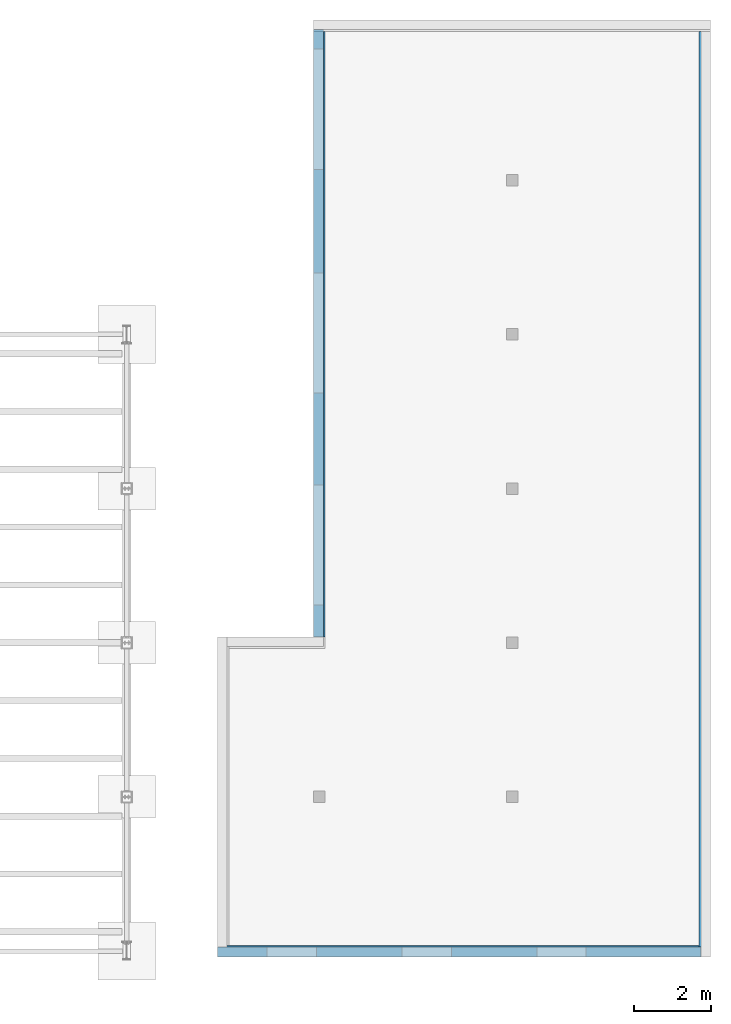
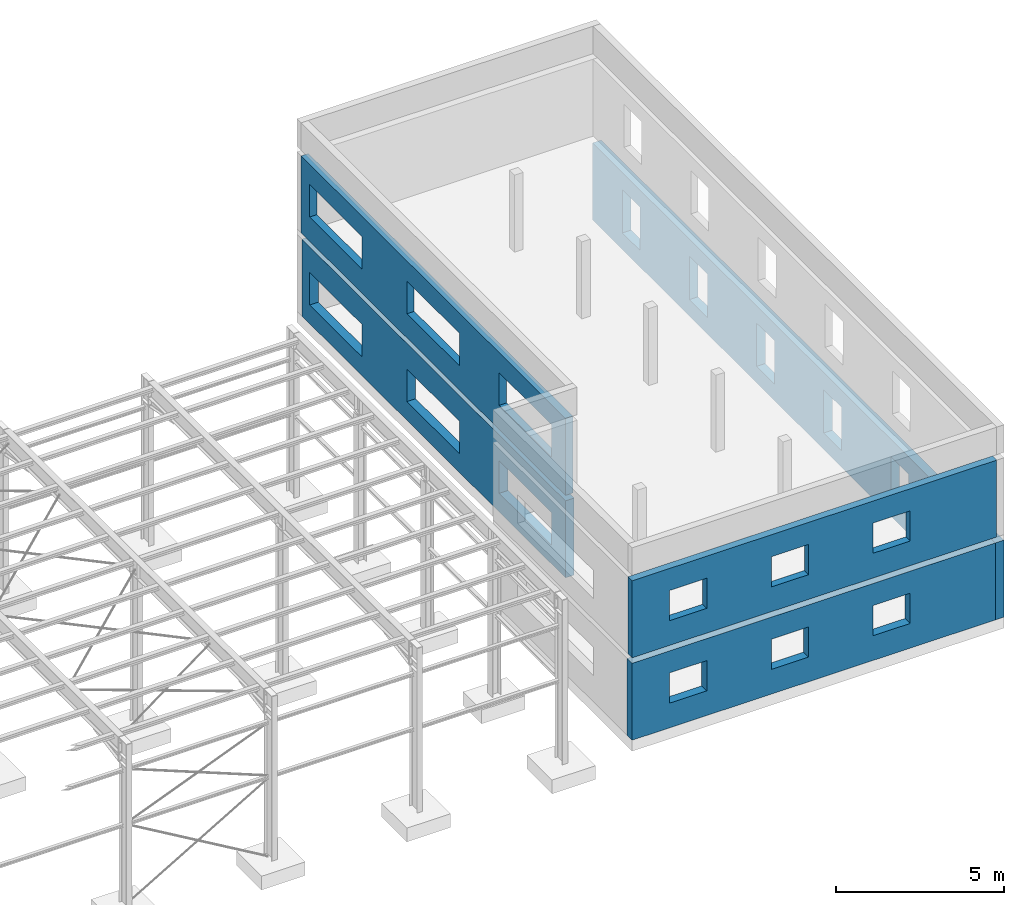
# Not in any storey, part 13 of 50: 5 walls, 18 openings.
"""IFC4 model written with IfcOpenShell, lengths in metres."""

from ifc_helpers import new_model, entity, si_unit, converted_unit, derived_unit, direction, frame, origin, place, context, subcontext, project, spatial, indexed_curve, outline, extrude, polygons, material, type_object, element, save


model = new_model("IFC4")

# Units and contexts
model_context = context("Model", 3, precision=1e-05, world=origin(), true_north=direction((6.123233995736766e-17, 1.0)))
body_context = subcontext(model_context, "Body", "Model", "MODEL_VIEW")
ifc_project = project(units=[si_unit("LENGTHUNIT", "METRE"), si_unit("AREAUNIT", "SQUARE_METRE"), converted_unit("PLANEANGLEUNIT", "DEGREE", entity("IfcPlaneAngleMeasure", 0.017453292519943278), si_unit("PLANEANGLEUNIT", "RADIAN"), dimensions=[0, 0, 0, 0, 0, 0, 0]), si_unit("VOLUMEUNIT", "CUBIC_METRE"), derived_unit("THERMALTRANSMITTANCEUNIT", [(si_unit("MASSUNIT", "GRAM", prefix="KILO"), 1), (si_unit("THERMODYNAMICTEMPERATUREUNIT", "KELVIN"), -1), (si_unit("TIMEUNIT", "SECOND"), -3)])], contexts=[model_context])

# Site
site_placement = place(None, origin())
site = spatial("IfcSite", under=ifc_project, at=site_placement, Name="Default", CompositionType="ELEMENT")

# Wall, openings
ifc_material = material(Name="Ortbeton - bewehrt Verputzt", Category="Generisch")
wall_type_1 = type_object("IfcWallType", Name="Basiswand:STB 300", PredefinedType="STANDARD")
wall_1_placement = place(site_placement, frame((38.1901448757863, 25.788267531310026, 0.0), z_axis=(0.0, 0.0, 1.0), x_axis=(0.0, -1.0, 0.0)))
wall_1 = element("IfcWall", 1, at=wall_1_placement, inside=site, type_object=wall_type_1, material=ifc_material, Name="Basiswand:STB 300", ObjectType="Basiswand:STB 300", PredefinedType="NOTDEFINED", context=body_context, shape_type="Tessellation", body=[
    polygons([(0.0, -0.1499999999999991, 0.0), (23.70850000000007, -0.1499999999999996, 0.0), (24.00850000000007, -0.1499999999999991, 0.0), (24.00850000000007, -0.1499999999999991, 2.8000000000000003), (23.70850000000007, -0.1499999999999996, 2.8), (0.0, -0.1499999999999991, 2.8000000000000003), (21.780797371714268, -0.1499999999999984, 2.1745163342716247), (22.840907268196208, -0.15000000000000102, 2.1745163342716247), (22.840907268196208, -0.15000000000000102, 0.603282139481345), (21.780797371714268, -0.1499999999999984, 0.603282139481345), (17.780797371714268, -0.15000000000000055, 2.1745163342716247), (18.840907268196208, -0.14999999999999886, 2.1745163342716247), (18.840907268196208, -0.14999999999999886, 0.603282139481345), (17.780797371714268, -0.15000000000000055, 0.603282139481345), (13.780797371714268, -0.14999999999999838, 2.1745163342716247), (14.840907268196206, -0.1499999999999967, 2.1745163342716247), (14.840907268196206, -0.1499999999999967, 0.603282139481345), (13.780797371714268, -0.14999999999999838, 0.603282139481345), (9.78079737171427, -0.15000000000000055, 2.1745163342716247), (10.840907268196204, -0.14999999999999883, 2.1745163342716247), (10.840907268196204, -0.14999999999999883, 0.603282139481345), (9.78079737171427, -0.15000000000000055, 0.603282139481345), (5.780797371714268, -0.15000000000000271, 2.1745163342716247), (6.840907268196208, -0.150000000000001, 2.1745163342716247), (6.840907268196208, -0.150000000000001, 0.603282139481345), (5.780797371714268, -0.15000000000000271, 0.603282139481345), (1.7807973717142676, -0.15000000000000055, 2.1745163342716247), (2.8409072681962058, -0.14999999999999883, 2.1745163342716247), (2.8409072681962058, -0.14999999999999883, 0.603282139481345), (1.7807973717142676, -0.15000000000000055, 0.603282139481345), (24.00850000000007, 0.150000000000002, 0.0), (0.0, 0.150000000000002, 0.0), (0.0, 0.150000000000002, 2.8000000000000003), (24.00850000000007, 0.150000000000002, 2.8000000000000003), (22.840907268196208, 0.1500000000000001, 2.1745163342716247), (21.780797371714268, 0.15000000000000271, 2.1745163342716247), (21.780797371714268, 0.15000000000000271, 0.603282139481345), (22.840907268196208, 0.1500000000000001, 0.603282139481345), (18.840907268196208, 0.15000000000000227, 2.1745163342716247), (17.780797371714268, 0.15000000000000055, 2.1745163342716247), (17.780797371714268, 0.15000000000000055, 0.603282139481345), (18.840907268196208, 0.15000000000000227, 0.603282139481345), (14.840907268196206, 0.15000000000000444, 2.1745163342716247), (13.780797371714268, 0.15000000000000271, 2.1745163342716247), (13.780797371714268, 0.15000000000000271, 0.603282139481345), (14.840907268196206, 0.15000000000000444, 0.603282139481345), (10.840907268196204, 0.15000000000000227, 2.1745163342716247), (9.78079737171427, 0.15000000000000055, 2.1745163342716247), (9.78079737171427, 0.15000000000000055, 0.603282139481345), (10.840907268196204, 0.15000000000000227, 0.603282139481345), (6.840907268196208, 0.1500000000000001, 2.1745163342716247), (5.780797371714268, 0.14999999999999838, 2.1745163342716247), (5.780797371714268, 0.14999999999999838, 0.603282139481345), (6.840907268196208, 0.1500000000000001, 0.603282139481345), (2.8409072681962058, 0.15000000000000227, 2.1745163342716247), (1.7807973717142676, 0.15000000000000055, 2.1745163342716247), (1.7807973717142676, 0.15000000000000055, 0.603282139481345), (2.8409072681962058, 0.15000000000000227, 0.603282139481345)], [[[1, 2, 3, 4, 5, 6], [7, 8, 9, 10], [11, 12, 13, 14], [15, 16, 17, 18], [19, 20, 21, 22], [23, 24, 25, 26], [27, 28, 29, 30]], [[31, 32, 33, 34], [35, 36, 37, 38], [39, 40, 41, 42], [43, 44, 45, 46], [47, 48, 49, 50], [51, 52, 53, 54], [55, 56, 57, 58]], [[3, 2, 1, 32, 31]], [[1, 6, 33, 32]], [[4, 3, 31, 34]], [[6, 5, 4, 34, 33]], [[7, 36, 35, 8]], [[9, 38, 37, 10]], [[36, 7, 10, 37]], [[8, 35, 38, 9]], [[11, 40, 39, 12]], [[13, 42, 41, 14]], [[40, 11, 14, 41]], [[12, 39, 42, 13]], [[15, 44, 43, 16]], [[17, 46, 45, 18]], [[44, 15, 18, 45]], [[16, 43, 46, 17]], [[19, 48, 47, 20]], [[21, 50, 49, 22]], [[48, 19, 22, 49]], [[20, 47, 50, 21]], [[23, 52, 51, 24]], [[25, 54, 53, 26]], [[52, 23, 26, 53]], [[24, 51, 54, 25]], [[27, 56, 55, 28]], [[29, 58, 57, 30]], [[56, 27, 30, 57]], [[28, 55, 58, 29]]], closed=True),
])
opening_1_placement = place(wall_1_placement, origin())
element("IfcOpeningElement", 2, at=opening_1_placement, cuts=wall_1, Name="Basiswand:STB 300", PredefinedType="OPENING", context=body_context, shape_type="SweptSolid", body=[
    extrude(outline(indexed_curve([(-0.78561709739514, -0.5300549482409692), (0.78561709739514, -0.5300549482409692), (0.78561709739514, 0.5300549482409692), (-0.78561709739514, 0.5300549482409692), (-0.78561709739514, -0.5300549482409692)], self_intersect=False)), frame((22.310852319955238, -0.14999999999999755, 1.388899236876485), z_axis=(0.0, 1.0, 0.0), x_axis=(0.0, 0.0, -1.0)), (0.0, 0.0, 1.0), 0.29999999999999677),
])
opening_2_placement = place(wall_1_placement, origin())
element("IfcOpeningElement", 3, at=opening_2_placement, cuts=wall_1, Name="Basiswand:STB 300", PredefinedType="OPENING", context=body_context, shape_type="SweptSolid", body=[
    extrude(outline(indexed_curve([(-0.78561709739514, -0.5300549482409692), (0.78561709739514, -0.5300549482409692), (0.78561709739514, 0.5300549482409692), (-0.78561709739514, 0.5300549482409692), (-0.78561709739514, -0.5300549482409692)], self_intersect=False)), frame((18.310852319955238, -0.14999999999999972, 1.388899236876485), z_axis=(0.0, 1.0, 0.0), x_axis=(0.0, 0.0, -1.0)), (0.0, 0.0, 1.0), 0.3000000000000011),
])
opening_3_placement = place(wall_1_placement, origin())
element("IfcOpeningElement", 4, at=opening_3_placement, cuts=wall_1, Name="Basiswand:STB 300", PredefinedType="OPENING", context=body_context, shape_type="SweptSolid", body=[
    extrude(outline(indexed_curve([(-0.78561709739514, -0.5300549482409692), (0.78561709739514, -0.5300549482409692), (0.78561709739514, 0.5300549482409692), (-0.78561709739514, 0.5300549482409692), (-0.78561709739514, -0.5300549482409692)], self_intersect=False)), frame((14.310852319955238, -0.14999999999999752, 1.388899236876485), z_axis=(0.0, 1.0, 0.0), x_axis=(0.0, 0.0, -1.0)), (0.0, 0.0, 1.0), 0.29999999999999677),
])
opening_4_placement = place(wall_1_placement, origin())
element("IfcOpeningElement", 5, at=opening_4_placement, cuts=wall_1, Name="Basiswand:STB 300", PredefinedType="OPENING", context=body_context, shape_type="SweptSolid", body=[
    extrude(outline(indexed_curve([(-0.78561709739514, -0.5300549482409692), (0.78561709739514, -0.5300549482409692), (0.78561709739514, 0.5300549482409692), (-0.78561709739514, 0.5300549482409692), (-0.78561709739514, -0.5300549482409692)], self_intersect=False)), frame((10.310852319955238, -0.1499999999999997, 1.388899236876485), z_axis=(0.0, 1.0, 0.0), x_axis=(0.0, 0.0, -1.0)), (0.0, 0.0, 1.0), 0.3000000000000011),
])
opening_5_placement = place(wall_1_placement, origin())
element("IfcOpeningElement", 6, at=opening_5_placement, cuts=wall_1, Name="Basiswand:STB 300", PredefinedType="OPENING", context=body_context, shape_type="SweptSolid", body=[
    extrude(outline(indexed_curve([(-0.78561709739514, -0.5300549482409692), (0.78561709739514, -0.5300549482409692), (0.78561709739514, 0.5300549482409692), (-0.78561709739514, 0.5300549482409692), (-0.78561709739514, -0.5300549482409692)], self_intersect=False)), frame((6.310852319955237, -0.14999999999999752, 1.388899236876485), z_axis=(0.0, 1.0, 0.0), x_axis=(0.0, 0.0, -1.0)), (0.0, 0.0, 1.0), 0.29999999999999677),
])
opening_6_placement = place(wall_1_placement, origin())
element("IfcOpeningElement", 7, at=opening_6_placement, cuts=wall_1, Name="Basiswand:STB 300", PredefinedType="OPENING", context=body_context, shape_type="SweptSolid", body=[
    extrude(outline(indexed_curve([(-0.78561709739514, -0.5300549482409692), (0.78561709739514, -0.5300549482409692), (0.78561709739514, 0.5300549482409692), (-0.78561709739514, 0.5300549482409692), (-0.78561709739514, -0.5300549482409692)], self_intersect=False)), frame((2.3108523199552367, -0.1499999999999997, 1.388899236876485), z_axis=(0.0, 1.0, 0.0), x_axis=(0.0, 0.0, -1.0)), (0.0, 0.0, 1.0), 0.3000000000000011),
])

wall_2_placement = place(site_placement, frame((38.04014487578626, 1.9297675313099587, 0.0), z_axis=(0.0, 0.0, 1.0), x_axis=(-1.0, 0.0, 0.0)))
wall_2 = element("IfcWall", 8, at=wall_2_placement, inside=site, type_object=wall_type_1, material=ifc_material, Name="Basiswand:STB 300", ObjectType="Basiswand:STB 300", PredefinedType="NOTDEFINED", context=body_context, shape_type="Tessellation", body=[
    polygons([(2.2237276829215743e-15, -0.15000000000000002, 0.0), (12.200000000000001, -0.15000000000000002, 0.0), (12.500000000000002, -0.14999999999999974, 0.0), (12.500000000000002, -0.14999999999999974, 2.8000000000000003), (12.199999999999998, -0.15000000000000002, 2.8000000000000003), (2.2237276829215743e-15, -0.15000000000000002, 2.8000000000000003), (2.930221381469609, -0.15000000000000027, 1.998985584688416), (4.209608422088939, -0.15000000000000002, 1.998985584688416), (4.209608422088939, -0.15000000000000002, 0.8995422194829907), (2.930221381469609, -0.15000000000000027, 0.8995422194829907), (9.930221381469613, -0.14999999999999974, 1.9989855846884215), (11.209608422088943, -0.15000000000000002, 1.9989855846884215), (11.209608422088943, -0.15000000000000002, 0.8995422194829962), (9.930221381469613, -0.14999999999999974, 0.8995422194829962), (6.430221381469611, -0.15000000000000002, 1.9989855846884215), (7.709608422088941, -0.15000000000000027, 1.9989855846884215), (7.709608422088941, -0.15000000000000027, 0.8995422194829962), (6.430221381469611, -0.15000000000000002, 0.8995422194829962), (12.500000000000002, 0.15000000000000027, 0.0), (1.2781610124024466e-15, 0.15000000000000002, 0.0), (1.2781610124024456e-15, 0.15000000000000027, 2.8000000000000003), (12.500000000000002, 0.15000000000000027, 2.8000000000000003), (4.209608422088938, 0.15000000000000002, 1.998985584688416), (2.9302213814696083, 0.15000000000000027, 1.998985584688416), (2.9302213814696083, 0.15000000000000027, 0.8995422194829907), (4.209608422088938, 0.15000000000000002, 0.8995422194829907), (11.209608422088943, 0.15000000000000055, 1.9989855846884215), (9.930221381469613, 0.15000000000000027, 1.9989855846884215), (9.930221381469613, 0.15000000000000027, 0.8995422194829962), (11.209608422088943, 0.15000000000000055, 0.8995422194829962), (7.70960842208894, 0.15000000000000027, 1.9989855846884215), (6.430221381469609, 0.15000000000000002, 1.9989855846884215), (6.430221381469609, 0.15000000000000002, 0.8995422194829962), (7.70960842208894, 0.15000000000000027, 0.8995422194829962)], [[[1, 2, 3, 4, 5, 6], [7, 8, 9, 10], [11, 12, 13, 14], [15, 16, 17, 18]], [[19, 20, 21, 22], [23, 24, 25, 26], [27, 28, 29, 30], [31, 32, 33, 34]], [[3, 2, 1, 20, 19]], [[1, 6, 21, 20]], [[4, 3, 19, 22]], [[6, 5, 4, 22, 21]], [[7, 24, 23, 8]], [[9, 26, 25, 10]], [[24, 7, 10, 25]], [[8, 23, 26, 9]], [[11, 28, 27, 12]], [[13, 30, 29, 14]], [[28, 11, 14, 29]], [[12, 27, 30, 13]], [[15, 32, 31, 16]], [[17, 34, 33, 18]], [[32, 15, 18, 33]], [[16, 31, 34, 17]]], closed=True),
])
opening_7_placement = place(wall_2_placement, origin())
element("IfcOpeningElement", 9, at=opening_7_placement, cuts=wall_2, Name="Basiswand:STB 300", PredefinedType="OPENING", context=body_context, shape_type="SweptSolid", body=[
    extrude(outline(indexed_curve([(-0.5497216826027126, -0.6396935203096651), (0.5497216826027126, -0.6396935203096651), (0.5497216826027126, 0.6396935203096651), (-0.5497216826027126, 0.6396935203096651), (-0.5497216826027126, -0.6396935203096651)], self_intersect=False)), frame((3.5699149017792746, -0.15000000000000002, 1.4492639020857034), z_axis=(0.0, 1.0, 0.0), x_axis=(0.0, 0.0, -1.0)), (0.0, 0.0, 1.0), 0.30000000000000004),
])
opening_8_placement = place(wall_2_placement, origin())
element("IfcOpeningElement", 10, at=opening_8_placement, cuts=wall_2, Name="Basiswand:STB 300", PredefinedType="OPENING", context=body_context, shape_type="SweptSolid", body=[
    extrude(outline(indexed_curve([(-0.5497216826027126, -0.6396935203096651), (0.5497216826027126, -0.6396935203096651), (0.5497216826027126, 0.6396935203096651), (-0.5497216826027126, 0.6396935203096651), (-0.5497216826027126, -0.6396935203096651)], self_intersect=False)), frame((10.569914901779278, -0.15000000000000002, 1.4492639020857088), z_axis=(0.0, 1.0, 0.0), x_axis=(0.0, 0.0, -1.0)), (0.0, 0.0, 1.0), 0.30000000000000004),
])
opening_9_placement = place(wall_2_placement, origin())
element("IfcOpeningElement", 11, at=opening_9_placement, cuts=wall_2, Name="Basiswand:STB 300", PredefinedType="OPENING", context=body_context, shape_type="SweptSolid", body=[
    extrude(outline(indexed_curve([(-0.5497216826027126, -0.6396935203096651), (0.5497216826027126, -0.6396935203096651), (0.5497216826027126, 0.6396935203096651), (-0.5497216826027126, 0.6396935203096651), (-0.5497216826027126, -0.6396935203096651)], self_intersect=False)), frame((7.069914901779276, -0.15000000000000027, 1.4492639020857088), z_axis=(0.0, 1.0, 0.0), x_axis=(0.0, 0.0, -1.0)), (0.0, 0.0, 1.0), 0.30000000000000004),
])

wall_3_placement = place(site_placement, frame((28.19014487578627, 10.079767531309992, 0.0), z_axis=(0.0, 0.0, 1.0), x_axis=(0.0, 1.0, 0.0)))
wall_3 = element("IfcWall", 12, at=wall_3_placement, inside=site, type_object=wall_type_1, material=ifc_material, Name="Basiswand:STB 300", ObjectType="Basiswand:STB 300", PredefinedType="NOTDEFINED", context=body_context, shape_type="Tessellation", body=[
    polygons([(0.0, -0.15000000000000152, 0.0), (15.708500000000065, -0.15000000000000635, 0.0), (15.708500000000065, -0.15000000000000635, 2.8000000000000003), (0.0, -0.15000000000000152, 2.8000000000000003), (12.127851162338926, -0.1500000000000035, 1.8657841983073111), (15.249594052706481, -0.15000000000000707, 1.8657841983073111), (15.249594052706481, -0.15000000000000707, 0.6826633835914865), (12.127851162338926, -0.1500000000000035, 0.6826633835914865), (6.327851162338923, -0.14999999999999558, 1.8657841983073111), (9.449594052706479, -0.1500000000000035, 1.8657841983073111), (9.449594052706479, -0.1500000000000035, 0.6826633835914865), (6.327851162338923, -0.14999999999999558, 0.6826633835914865), (0.8278511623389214, -0.15000000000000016, 1.8657841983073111), (3.9495940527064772, -0.14999999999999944, 1.8657841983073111), (3.9495940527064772, -0.14999999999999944, 0.6826633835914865), (0.8278511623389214, -0.15000000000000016, 0.6826633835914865), (15.708500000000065, 0.14999999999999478, 0.0), (0.0, 0.14999999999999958, 0.0), (0.0, 0.14999999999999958, 2.8000000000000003), (15.708500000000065, 0.14999999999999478, 2.8000000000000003), (15.249594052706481, 0.14999999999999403, 1.8657841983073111), (12.127851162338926, 0.14999999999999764, 1.8657841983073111), (12.127851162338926, 0.14999999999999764, 0.6826633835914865), (15.249594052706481, 0.14999999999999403, 0.6826633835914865), (9.449594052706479, 0.1499999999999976, 1.8657841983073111), (6.327851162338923, 0.15000000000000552, 1.8657841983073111), (6.327851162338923, 0.15000000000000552, 0.6826633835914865), (9.449594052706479, 0.1499999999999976, 0.6826633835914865), (3.9495940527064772, 0.15000000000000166, 1.8657841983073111), (0.8278511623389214, 0.15000000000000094, 1.8657841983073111), (0.8278511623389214, 0.15000000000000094, 0.6826633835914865), (3.9495940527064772, 0.15000000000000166, 0.6826633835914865)], [[[1, 2, 3, 4], [5, 6, 7, 8], [9, 10, 11, 12], [13, 14, 15, 16]], [[17, 18, 19, 20], [21, 22, 23, 24], [25, 26, 27, 28], [29, 30, 31, 32]], [[2, 1, 18, 17]], [[3, 2, 17, 20]], [[1, 4, 19, 18]], [[4, 3, 20, 19]], [[5, 22, 21, 6]], [[7, 24, 23, 8]], [[22, 5, 8, 23]], [[6, 21, 24, 7]], [[9, 26, 25, 10]], [[11, 28, 27, 12]], [[26, 9, 12, 27]], [[10, 25, 28, 11]], [[13, 30, 29, 14]], [[15, 32, 31, 16]], [[30, 13, 16, 31]], [[14, 29, 32, 15]]], closed=True),
])
opening_10_placement = place(wall_3_placement, origin())
element("IfcOpeningElement", 13, at=opening_10_placement, cuts=wall_3, Name="Basiswand:STB 300", PredefinedType="OPENING", context=body_context, shape_type="SweptSolid", body=[
    extrude(outline(indexed_curve([(-0.5915604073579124, -1.560871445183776), (0.5915604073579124, -1.560871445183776), (0.5915604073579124, 1.5608714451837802), (-0.5915604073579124, 1.5608714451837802), (-0.5915604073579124, -1.560871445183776)], self_intersect=False)), frame((13.688722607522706, -0.15000000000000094, 1.274223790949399), z_axis=(0.0, 1.0, 0.0), x_axis=(0.0, 0.0, -1.0)), (0.0, 0.0, 1.0), 0.3000000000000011),
])
opening_11_placement = place(wall_3_placement, origin())
element("IfcOpeningElement", 14, at=opening_11_placement, cuts=wall_3, Name="Basiswand:STB 300", PredefinedType="OPENING", context=body_context, shape_type="SweptSolid", body=[
    extrude(outline(indexed_curve([(-0.5915604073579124, -1.560871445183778), (0.5915604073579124, -1.560871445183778), (0.5915604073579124, 1.560871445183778), (-0.5915604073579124, 1.560871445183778), (-0.5915604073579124, -1.560871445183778)], self_intersect=False)), frame((7.888722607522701, -0.15000000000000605, 1.274223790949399), z_axis=(0.0, 1.0, 0.0), x_axis=(0.0, 0.0, -1.0)), (0.0, 0.0, 1.0), 0.3000000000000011),
])
opening_12_placement = place(wall_3_placement, origin())
element("IfcOpeningElement", 15, at=opening_12_placement, cuts=wall_3, Name="Basiswand:STB 300", PredefinedType="OPENING", context=body_context, shape_type="SweptSolid", body=[
    extrude(outline(indexed_curve([(-0.5915604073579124, -1.560871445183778), (0.5915604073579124, -1.560871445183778), (0.5915604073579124, 1.560871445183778), (-0.5915604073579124, 1.560871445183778), (-0.5915604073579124, -1.560871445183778)], self_intersect=False)), frame((2.3887226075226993, -0.15000000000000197, 1.274223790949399), z_axis=(0.0, 1.0, 0.0), x_axis=(0.0, 0.0, -1.0)), (0.0, 0.0, 1.0), 0.3000000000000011),
])

wall_type_2 = type_object("IfcWallType", Name="Basiswand:STB 250", PredefinedType="STANDARD")
wall_4_placement = place(site_placement, frame((38.090144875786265, 1.9047675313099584, 3.0), z_axis=(0.0, 0.0, 1.0), x_axis=(-1.0, 0.0, 0.0)))
wall_4 = element("IfcWall", 16, at=wall_4_placement, inside=site, type_object=wall_type_2, material=ifc_material, Name="Basiswand:STB 250", ObjectType="Basiswand:STB 250", PredefinedType="NOTDEFINED", context=body_context, shape_type="Tessellation", body=[
    polygons([(-2.094788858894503e-15, -0.125, 0.0), (12.300000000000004, -0.125, 0.0), (12.550000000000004, -0.125, 0.0), (12.550000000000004, -0.125, 2.8000000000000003), (12.300000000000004, -0.125, 2.8000000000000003), (-2.094788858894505e-15, -0.12499999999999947, 2.8000000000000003), (9.980221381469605, -0.125, 1.998985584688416), (11.259608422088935, -0.12500000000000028, 1.998985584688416), (11.259608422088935, -0.12500000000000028, 0.8995422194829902), (9.980221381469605, -0.125, 0.8995422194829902), (6.480221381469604, -0.12500000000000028, 1.9989855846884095), (7.759608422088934, -0.12500000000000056, 1.9989855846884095), (7.759608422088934, -0.12500000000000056, 0.8995422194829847), (6.480221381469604, -0.12500000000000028, 0.8995422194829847), (2.9802213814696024, -0.12500000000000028, 1.9989855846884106), (4.259608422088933, -0.125, 1.9989855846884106), (4.259608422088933, -0.125, 0.8995422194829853), (2.9802213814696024, -0.12500000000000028, 0.8995422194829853), (12.550000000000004, 0.125, 0.0), (-2.9037667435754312e-15, 0.125, 0.0), (-2.9037667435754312e-15, 0.125, 2.8000000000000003), (12.550000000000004, 0.125, 2.8000000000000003), (11.259608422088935, 0.12499999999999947, 1.998985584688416), (9.980221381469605, 0.12499999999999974, 1.998985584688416), (9.980221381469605, 0.12499999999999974, 0.8995422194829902), (11.259608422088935, 0.12499999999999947, 0.8995422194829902), (7.759608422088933, 0.12499999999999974, 1.9989855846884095), (6.480221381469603, 0.125, 1.9989855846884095), (6.480221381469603, 0.125, 0.8995422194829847), (7.759608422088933, 0.12499999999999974, 0.8995422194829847), (4.259608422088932, 0.12500000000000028, 1.9989855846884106), (2.980221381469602, 0.12499999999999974, 1.9989855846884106), (2.980221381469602, 0.12499999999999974, 0.8995422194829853), (4.259608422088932, 0.12500000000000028, 0.8995422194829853)], [[[1, 2, 3, 4, 5, 6], [7, 8, 9, 10], [11, 12, 13, 14], [15, 16, 17, 18]], [[19, 20, 21, 22], [23, 24, 25, 26], [27, 28, 29, 30], [31, 32, 33, 34]], [[3, 2, 1, 20, 19]], [[1, 6, 21, 20]], [[4, 3, 19, 22]], [[6, 5, 4, 22, 21]], [[7, 24, 23, 8]], [[9, 26, 25, 10]], [[24, 7, 10, 25]], [[8, 23, 26, 9]], [[11, 28, 27, 12]], [[13, 30, 29, 14]], [[28, 11, 14, 29]], [[12, 27, 30, 13]], [[15, 32, 31, 16]], [[17, 34, 33, 18]], [[32, 15, 18, 33]], [[16, 31, 34, 17]]], closed=True),
])
opening_13_placement = place(wall_4_placement, origin())
element("IfcOpeningElement", 17, at=opening_13_placement, cuts=wall_4, Name="Basiswand:STB 250", PredefinedType="OPENING", context=body_context, shape_type="SweptSolid", body=[
    extrude(outline(indexed_curve([(-0.5497216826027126, -0.6396935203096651), (0.5497216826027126, -0.6396935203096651), (0.5497216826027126, 0.6396935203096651), (-0.5497216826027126, 0.6396935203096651), (-0.5497216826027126, -0.6396935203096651)], self_intersect=False)), frame((10.61991490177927, -0.125, 1.4492639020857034), z_axis=(0.0, 1.0, 0.0), x_axis=(0.0, 0.0, -1.0)), (0.0, 0.0, 1.0), 0.25),
])
opening_14_placement = place(wall_4_placement, origin())
element("IfcOpeningElement", 18, at=opening_14_placement, cuts=wall_4, Name="Basiswand:STB 250", PredefinedType="OPENING", context=body_context, shape_type="SweptSolid", body=[
    extrude(outline(indexed_curve([(-0.5497216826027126, -0.6396935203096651), (0.549721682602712, -0.6396935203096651), (0.549721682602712, 0.6396935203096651), (-0.5497216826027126, 0.6396935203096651), (-0.5497216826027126, -0.6396935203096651)], self_intersect=False)), frame((7.119914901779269, -0.125, 1.4492639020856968), z_axis=(0.0, 1.0, 0.0), x_axis=(0.0, 0.0, -1.0)), (0.0, 0.0, 1.0), 0.25),
])
opening_15_placement = place(wall_4_placement, origin())
element("IfcOpeningElement", 19, at=opening_15_placement, cuts=wall_4, Name="Basiswand:STB 250", PredefinedType="OPENING", context=body_context, shape_type="SweptSolid", body=[
    extrude(outline(indexed_curve([(-0.5497216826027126, -0.6396935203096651), (0.5497216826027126, -0.6396935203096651), (0.5497216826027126, 0.6396935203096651), (-0.5497216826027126, 0.6396935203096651), (-0.5497216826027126, -0.6396935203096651)], self_intersect=False)), frame((3.6199149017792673, -0.125, 1.4492639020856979), z_axis=(0.0, 1.0, 0.0), x_axis=(0.0, 0.0, -1.0)), (0.0, 0.0, 1.0), 0.25),
])

wall_5_placement = place(site_placement, frame((28.16514487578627, 10.079767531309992, 3.0), z_axis=(0.0, 0.0, 1.0), x_axis=(0.0, 1.0, 0.0)))
wall_5 = element("IfcWall", 20, at=wall_5_placement, inside=site, type_object=wall_type_2, material=ifc_material, Name="Basiswand:STB 250", ObjectType="Basiswand:STB 250", PredefinedType="NOTDEFINED", context=body_context, shape_type="Tessellation", body=[
    polygons([(2.1657342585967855e-15, -0.12499999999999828, 0.0), (15.758500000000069, -0.12499999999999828, 0.0), (15.758500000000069, -0.12499999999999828, 2.8000000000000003), (2.1657342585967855e-15, -0.12499999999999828, 2.8000000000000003), (12.127851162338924, -0.12500000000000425, 2.0657841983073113), (15.24959405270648, -0.12500000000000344, 2.0657841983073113), (15.24959405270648, -0.12500000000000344, 0.8826633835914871), (12.127851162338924, -0.12500000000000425, 0.8826633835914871), (6.327851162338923, -0.1249999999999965, 2.0657841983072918), (9.449594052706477, -0.125, 2.0657841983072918), (9.449594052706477, -0.125, 0.8826633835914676), (6.327851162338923, -0.1249999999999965, 0.8826633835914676), (0.8278511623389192, -0.12499999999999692, 2.065784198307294), (3.9495940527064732, -0.12500000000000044, 2.065784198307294), (3.9495940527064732, -0.12500000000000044, 0.8826633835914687), (0.8278511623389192, -0.12499999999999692, 0.8826633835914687), (15.758500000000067, 0.12499999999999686, 0.0), (0.0, 0.1250000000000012, 0.0), (0.0, 0.1250000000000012, 2.8000000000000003), (15.758500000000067, 0.12499999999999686, 2.8000000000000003), (15.249594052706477, 0.12499999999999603, 2.0657841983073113), (12.12785116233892, 0.12499999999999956, 2.0657841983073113), (12.12785116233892, 0.12499999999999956, 0.8826633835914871), (15.249594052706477, 0.12499999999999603, 0.8826633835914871), (9.449594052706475, 0.12499999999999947, 2.0657841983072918), (6.327851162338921, 0.1250000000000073, 2.0657841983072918), (6.327851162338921, 0.1250000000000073, 0.8826633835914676), (9.449594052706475, 0.12499999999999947, 0.8826633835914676), (3.949594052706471, 0.1250000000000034, 2.065784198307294), (0.8278511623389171, 0.12500000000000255, 2.065784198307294), (0.8278511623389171, 0.12500000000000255, 0.8826633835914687), (3.949594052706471, 0.1250000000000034, 0.8826633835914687)], [[[1, 2, 3, 4], [5, 6, 7, 8], [9, 10, 11, 12], [13, 14, 15, 16]], [[17, 18, 19, 20], [21, 22, 23, 24], [25, 26, 27, 28], [29, 30, 31, 32]], [[2, 1, 18, 17]], [[1, 4, 19, 18]], [[3, 2, 17, 20]], [[4, 3, 20, 19]], [[5, 22, 21, 6]], [[7, 24, 23, 8]], [[22, 5, 8, 23]], [[6, 21, 24, 7]], [[9, 26, 25, 10]], [[11, 28, 27, 12]], [[26, 9, 12, 27]], [[10, 25, 28, 11]], [[13, 30, 29, 14]], [[15, 32, 31, 16]], [[30, 13, 16, 31]], [[14, 29, 32, 15]]], closed=True),
])
opening_16_placement = place(wall_5_placement, origin())
element("IfcOpeningElement", 21, at=opening_16_placement, cuts=wall_5, Name="Basiswand:STB 250", PredefinedType="OPENING", context=body_context, shape_type="SweptSolid", body=[
    extrude(outline(indexed_curve([(-0.5915604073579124, -1.560871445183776), (0.5915604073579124, -1.560871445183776), (0.5915604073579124, 1.5608714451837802), (-0.5915604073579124, 1.5608714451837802), (-0.5915604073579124, -1.560871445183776)], self_intersect=False)), frame((13.688722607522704, -0.12500000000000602, 1.474223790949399), z_axis=(0.0, 1.0, 0.0), x_axis=(0.0, 0.0, -1.0)), (0.0, 0.0, 1.0), 0.25000000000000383),
])
opening_17_placement = place(wall_5_placement, origin())
element("IfcOpeningElement", 22, at=opening_17_placement, cuts=wall_5, Name="Basiswand:STB 250", PredefinedType="OPENING", context=body_context, shape_type="SweptSolid", body=[
    extrude(outline(indexed_curve([(-0.5915604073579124, -1.5608714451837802), (0.5915604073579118, -1.5608714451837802), (0.5915604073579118, 1.560871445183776), (-0.5915604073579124, 1.560871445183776), (-0.5915604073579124, -1.5608714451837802)], self_intersect=False)), frame((7.888722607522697, -0.1250000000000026, 1.4742237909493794), z_axis=(0.0, 1.0, 0.0), x_axis=(0.0, 0.0, -1.0)), (0.0, 0.0, 1.0), 0.25000000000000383),
])
opening_18_placement = place(wall_5_placement, origin())
element("IfcOpeningElement", 23, at=opening_18_placement, cuts=wall_5, Name="Basiswand:STB 250", PredefinedType="OPENING", context=body_context, shape_type="SweptSolid", body=[
    extrude(outline(indexed_curve([(-0.5915604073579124, -1.560871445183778), (0.5915604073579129, -1.560871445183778), (0.5915604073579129, 1.560871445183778), (-0.5915604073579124, 1.560871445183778), (-0.5915604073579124, -1.560871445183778)], self_intersect=False)), frame((2.388722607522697, -0.12499999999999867, 1.4742237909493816), z_axis=(0.0, 1.0, 0.0), x_axis=(0.0, 0.0, -1.0)), (0.0, 0.0, 1.0), 0.25000000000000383),
])

save(model, "model.ifc")
